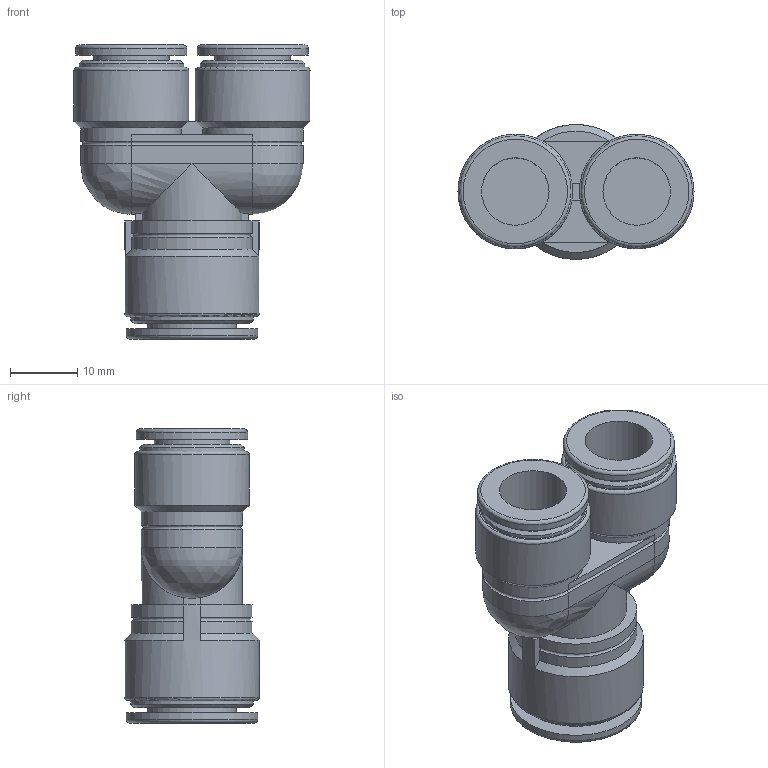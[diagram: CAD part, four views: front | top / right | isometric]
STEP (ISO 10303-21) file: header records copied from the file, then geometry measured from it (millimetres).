
FILE_DESCRIPTION((''),'2;1');
FILE_NAME('E:\2012年度板ﾃﾞｰﾀ\CHIYODA 3D-CAD DATA (Inventor 11)\TOUCH CONNECTOR FIVE (Inventor 11)\[20] DIFFERENT UNION Y\[04] FR10-12UY FR10-12UYW.stp','2012-03-21T16:30:35',('kazuhiro.t'),(''),'Autodesk Inventor 11','Autodesk Inventor 11','');
FILE_SCHEMA(('AUTOMOTIVE_DESIGN { 1 0 10303 214 1 1 1 1 }'));
Length unit declared in the file: millimetre
Products named in the file (1): [04] FR10-12UY FR10-12UYW
Bounding box: 35 x 19.99 x 43.6 mm (x, y, z)
Volume: 11284.5 mm3; surface area: 6712.4 mm2
Topology: 1 solids, 1 shells, 83 faces, 181 edges, 111 vertices
Faces by surface type: plane 25, bspline 24, cylinder 22, torus 6, cone 5, sphere 1
Full cylindrical faces by diameter (mm): 10 x1, 11.2 x1, 13.2 x1, 15.5 x1, 16.5 x1, 17 x1, 18.2 x1, 19.5 x1, 20 x1
Entity records: 2614 total; most frequent: CARTESIAN_POINT 953, DIRECTION 338, ORIENTED_EDGE 304, EDGE_CURVE 152, AXIS2_PLACEMENT_3D 140, EDGE_LOOP 120, VERTEX_POINT 108, FACE_OUTER_BOUND 83
